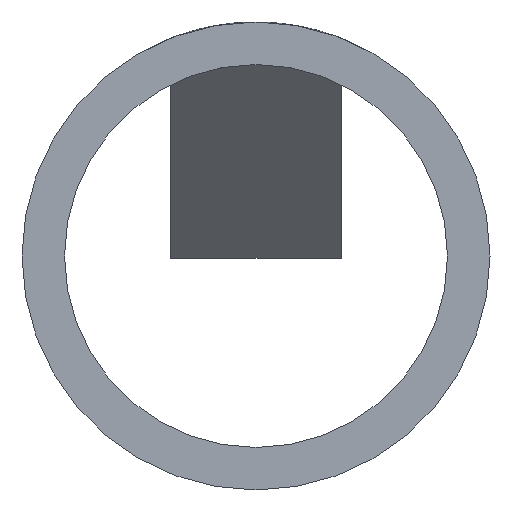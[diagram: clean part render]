
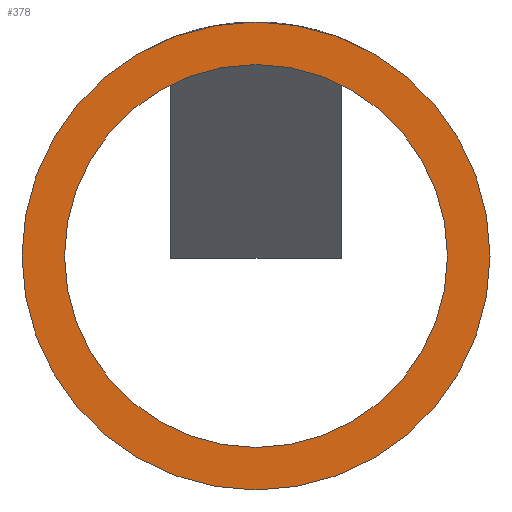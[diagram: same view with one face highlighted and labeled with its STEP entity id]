
A CAD part, front view. The second image highlights one B-rep face of the part: STEP entity #378.
In plain terms, the highlighted planar face has unit normal (0, -1, 0).
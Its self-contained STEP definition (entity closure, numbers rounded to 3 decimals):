
#14 = CIRCLE ( 'NONE', #122, 5.5 ) ;
#16 = CIRCLE ( 'NONE', #118, 4.5 ) ;
#38 = CIRCLE ( 'NONE', #80, 4.5 ) ;
#54 = CIRCLE ( 'NONE', #96, 5.5 ) ;
#80 = AXIS2_PLACEMENT_3D ( 'NONE', #322, #300, #298 ) ;
#87 = EDGE_CURVE ( 'NONE', #283, #301, #16, .T. ) ;
#88 = EDGE_CURVE ( 'NONE', #353, #361, #14, .T. ) ;
#95 = EDGE_CURVE ( 'NONE', #361, #353, #54, .T. ) ;
#96 = AXIS2_PLACEMENT_3D ( 'NONE', #339, #330, #329 ) ;
#110 = EDGE_CURVE ( 'NONE', #301, #283, #38, .T. ) ;
#118 = AXIS2_PLACEMENT_3D ( 'NONE', #362, #360, #359 ) ;
#122 = AXIS2_PLACEMENT_3D ( 'NONE', #358, #357, #355 ) ;
#133 = AXIS2_PLACEMENT_3D ( 'NONE', #174, #159, #157 ) ;
#157 = DIRECTION ( 'NONE',  ( -1., 0., 0. ) ) ;
#159 = DIRECTION ( 'NONE',  ( 0., -1., 0. ) ) ;
#160 = PLANE ( 'NONE',  #133 ) ;
#174 = CARTESIAN_POINT ( 'NONE',  ( 0., 0., 0. ) ) ;
#244 = CARTESIAN_POINT ( 'NONE',  ( 5.5, 0., 0. ) ) ;
#245 = CARTESIAN_POINT ( 'NONE',  ( -5.5, 0., 0. ) ) ;
#257 = CARTESIAN_POINT ( 'NONE',  ( 4.5, 0., 0. ) ) ;
#262 = CARTESIAN_POINT ( 'NONE',  ( -4.5, 0., 0. ) ) ;
#283 = VERTEX_POINT ( 'NONE', #262 ) ;
#298 = DIRECTION ( 'NONE',  ( -1., 0., 0. ) ) ;
#300 = DIRECTION ( 'NONE',  ( 0., -1., 0. ) ) ;
#301 = VERTEX_POINT ( 'NONE', #257 ) ;
#322 = CARTESIAN_POINT ( 'NONE',  ( 0., 0., 0. ) ) ;
#329 = DIRECTION ( 'NONE',  ( -1., 0., 0. ) ) ;
#330 = DIRECTION ( 'NONE',  ( 0., -1., 0. ) ) ;
#339 = CARTESIAN_POINT ( 'NONE',  ( 0., 0., 0. ) ) ;
#353 = VERTEX_POINT ( 'NONE', #245 ) ;
#355 = DIRECTION ( 'NONE',  ( -1., 0., 0. ) ) ;
#357 = DIRECTION ( 'NONE',  ( 0., -1., 0. ) ) ;
#358 = CARTESIAN_POINT ( 'NONE',  ( 0., 0., 0. ) ) ;
#359 = DIRECTION ( 'NONE',  ( -1., 0., 0. ) ) ;
#360 = DIRECTION ( 'NONE',  ( 0., -1., 0. ) ) ;
#361 = VERTEX_POINT ( 'NONE', #244 ) ;
#362 = CARTESIAN_POINT ( 'NONE',  ( 0., 0., 0. ) ) ;
#378 = ADVANCED_FACE ( 'NONE', ( #496, #493 ), #160, .T. ) ;
#410 = EDGE_LOOP ( 'NONE', ( #420, #421 ) ) ;
#420 = ORIENTED_EDGE ( 'NONE', *, *, #95, .T. ) ;
#421 = ORIENTED_EDGE ( 'NONE', *, *, #88, .T. ) ;
#422 = ORIENTED_EDGE ( 'NONE', *, *, #110, .F. ) ;
#423 = ORIENTED_EDGE ( 'NONE', *, *, #87, .F. ) ;
#461 = EDGE_LOOP ( 'NONE', ( #422, #423 ) ) ;
#493 = FACE_BOUND ( 'NONE', #461, .T. ) ;
#496 = FACE_OUTER_BOUND ( 'NONE', #410, .T. ) ;
